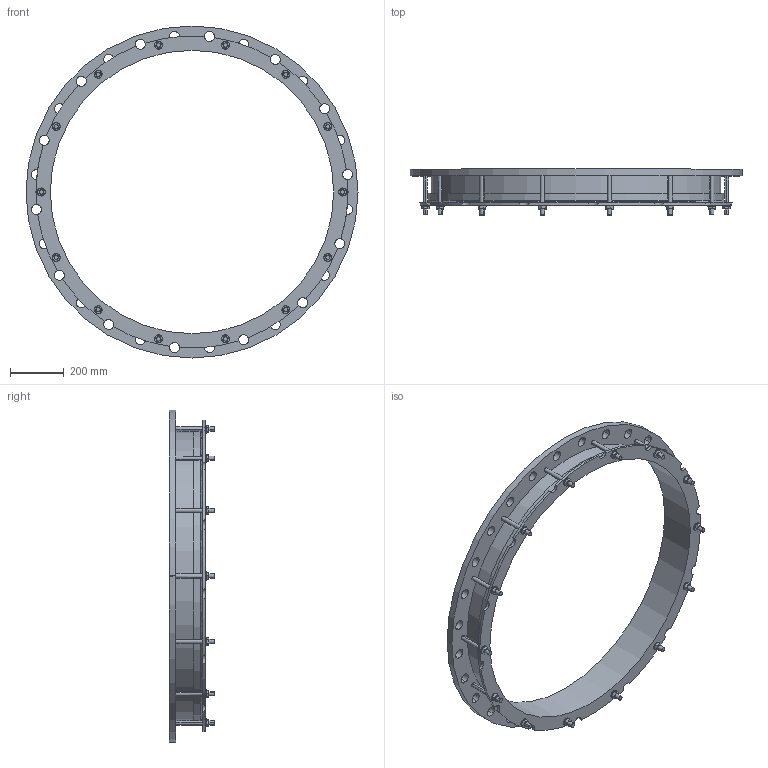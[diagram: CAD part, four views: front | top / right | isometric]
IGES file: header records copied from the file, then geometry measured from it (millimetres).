
Start section:  PTC IGES file: 1048x1000pn10_14not.igs
Global section: file name: 1048x1000pn10_14not.igs; native system: Creo Parametric by PTC Inc.; preprocessor: 2016130; author: mfairey; organization: Unknown; date: 20190117.111639; units: millimetre
Bounding box: 1230 x 169 x 1230 mm (x, y, z)
Surface area: 1936244.5 mm2 (no closed solid volume)
Topology: 0 solids, 0 shells, 310 faces, 1664 edges, 1664 vertices
Faces by surface type: revolution 180, bspline 130
